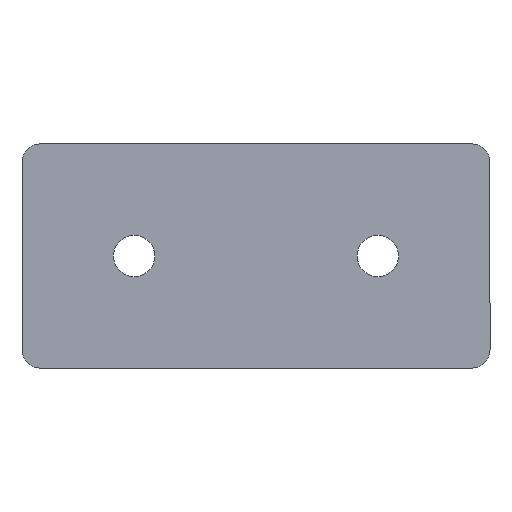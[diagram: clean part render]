
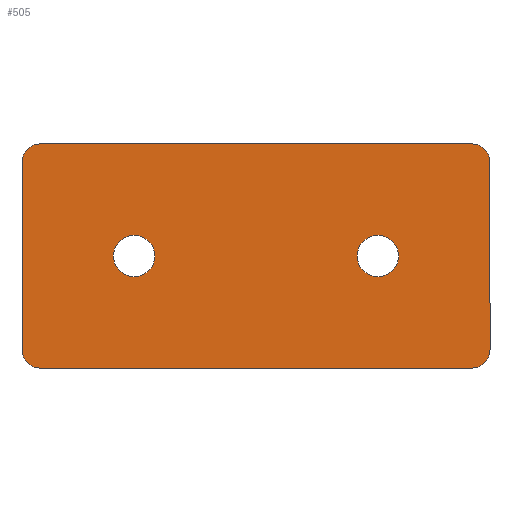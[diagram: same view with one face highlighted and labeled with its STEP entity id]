
A CAD part, front view. The second image highlights one B-rep face of the part: STEP entity #505.
In plain terms, the highlighted planar face has unit normal (0, -1, 0).
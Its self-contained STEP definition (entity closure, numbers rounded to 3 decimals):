
#11 = DIRECTION ( 'NONE',  ( 0., 1., 0. ) ) ;
#13 = DIRECTION ( 'NONE',  ( 0., 0., -1. ) ) ;
#22 = CARTESIAN_POINT ( 'NONE',  ( -9.081, -2., 12.865 ) ) ;
#31 = AXIS2_PLACEMENT_3D ( 'NONE', #432, #187, #474 ) ;
#32 = LINE ( 'NONE', #52, #452 ) ;
#39 = CIRCLE ( 'NONE', #370, 4.25 ) ;
#40 = VERTEX_POINT ( 'NONE', #262 ) ;
#41 = EDGE_CURVE ( 'NONE', #412, #144, #39, .T. ) ;
#48 = CARTESIAN_POINT ( 'NONE',  ( 79.351, -2., -33.135 ) ) ;
#52 = CARTESIAN_POINT ( 'NONE',  ( 79.351, -2., -33.135 ) ) ;
#57 = VERTEX_POINT ( 'NONE', #22 ) ;
#62 = CIRCLE ( 'NONE', #244, 4.25 ) ;
#68 = EDGE_CURVE ( 'NONE', #40, #450, #126, .T. ) ;
#71 = EDGE_LOOP ( 'NONE', ( #216, #390 ) ) ;
#74 = FACE_BOUND ( 'NONE', #71, .T. ) ;
#76 = VERTEX_POINT ( 'NONE', #48 ) ;
#77 = ORIENTED_EDGE ( 'NONE', *, *, #433, .F. ) ;
#85 = CARTESIAN_POINT ( 'NONE',  ( 83.135, -2., -29.351 ) ) ;
#86 = DIRECTION ( 'NONE',  ( 0., 1., 0. ) ) ;
#92 = DIRECTION ( 'NONE',  ( 0., 0., 1. ) ) ;
#94 = CARTESIAN_POINT ( 'NONE',  ( 79.351, -2., 12.865 ) ) ;
#95 = DIRECTION ( 'NONE',  ( -1., 0., 0. ) ) ;
#101 = EDGE_LOOP ( 'NONE', ( #395, #157 ) ) ;
#109 = ORIENTED_EDGE ( 'NONE', *, *, #135, .F. ) ;
#116 = ORIENTED_EDGE ( 'NONE', *, *, #292, .F. ) ;
#117 = AXIS2_PLACEMENT_3D ( 'NONE', #251, #11, #303 ) ;
#120 = VERTEX_POINT ( 'NONE', #85 ) ;
#121 = CARTESIAN_POINT ( 'NONE',  ( -9.081, -2., 9.081 ) ) ;
#126 = LINE ( 'NONE', #327, #333 ) ;
#127 = VERTEX_POINT ( 'NONE', #362 ) ;
#133 = CARTESIAN_POINT ( 'NONE',  ( -9.081, -2., 12.865 ) ) ;
#135 = EDGE_CURVE ( 'NONE', #280, #120, #436, .T. ) ;
#141 = DIRECTION ( 'NONE',  ( 0., 1., 0. ) ) ;
#143 = CIRCLE ( 'NONE', #281, 3.784 ) ;
#144 = VERTEX_POINT ( 'NONE', #181 ) ;
#145 = DIRECTION ( 'NONE',  ( 0., 1., 0. ) ) ;
#147 = PLANE ( 'NONE',  #218 ) ;
#157 = ORIENTED_EDGE ( 'NONE', *, *, #349, .T. ) ;
#166 = ORIENTED_EDGE ( 'NONE', *, *, #471, .F. ) ;
#173 = DIRECTION ( 'NONE',  ( 0., 1., 0. ) ) ;
#181 = CARTESIAN_POINT ( 'NONE',  ( 60.135, -2., -14.385 ) ) ;
#182 = FACE_BOUND ( 'NONE', #101, .T. ) ;
#187 = DIRECTION ( 'NONE',  ( 0., 1., 0. ) ) ;
#191 = VERTEX_POINT ( 'NONE', #423 ) ;
#193 = DIRECTION ( 'NONE',  ( 0., 0., 1. ) ) ;
#207 = LINE ( 'NONE', #133, #426 ) ;
#214 = DIRECTION ( 'NONE',  ( 0., 1., 0. ) ) ;
#216 = ORIENTED_EDGE ( 'NONE', *, *, #41, .T. ) ;
#218 = AXIS2_PLACEMENT_3D ( 'NONE', #347, #227, #512 ) ;
#227 = DIRECTION ( 'NONE',  ( 0., 1., 0. ) ) ;
#232 = EDGE_CURVE ( 'NONE', #286, #40, #487, .T. ) ;
#235 = CIRCLE ( 'NONE', #449, 4.25 ) ;
#244 = AXIS2_PLACEMENT_3D ( 'NONE', #320, #86, #363 ) ;
#249 = CARTESIAN_POINT ( 'NONE',  ( -12.865, -2., 9.081 ) ) ;
#251 = CARTESIAN_POINT ( 'NONE',  ( 79.351, -2., -29.351 ) ) ;
#252 = DIRECTION ( 'NONE',  ( 0., 1., 0. ) ) ;
#262 = CARTESIAN_POINT ( 'NONE',  ( -12.865, -2., -29.351 ) ) ;
#280 = VERTEX_POINT ( 'NONE', #360 ) ;
#281 = AXIS2_PLACEMENT_3D ( 'NONE', #121, #173, #492 ) ;
#286 = VERTEX_POINT ( 'NONE', #377 ) ;
#292 = EDGE_CURVE ( 'NONE', #407, #280, #478, .T. ) ;
#298 = CARTESIAN_POINT ( 'NONE',  ( 83.135, -2., 9.081 ) ) ;
#303 = DIRECTION ( 'NONE',  ( 0., 0., 1. ) ) ;
#307 = VECTOR ( 'NONE', #344, 1000. ) ;
#309 = CARTESIAN_POINT ( 'NONE',  ( 60.135, -2., -5.885 ) ) ;
#314 = EDGE_CURVE ( 'NONE', #76, #286, #32, .T. ) ;
#316 = EDGE_CURVE ( 'NONE', #450, #57, #143, .T. ) ;
#320 = CARTESIAN_POINT ( 'NONE',  ( 10.135, -2., -10.135 ) ) ;
#327 = CARTESIAN_POINT ( 'NONE',  ( -12.865, -2., -29.351 ) ) ;
#332 = AXIS2_PLACEMENT_3D ( 'NONE', #380, #141, #422 ) ;
#333 = VECTOR ( 'NONE', #92, 1000. ) ;
#344 = DIRECTION ( 'NONE',  ( 0., 0., -1. ) ) ;
#347 = CARTESIAN_POINT ( 'NONE',  ( -9.081, -2., 9.081 ) ) ;
#349 = EDGE_CURVE ( 'NONE', #127, #191, #235, .T. ) ;
#360 = CARTESIAN_POINT ( 'NONE',  ( 83.135, -2., 9.081 ) ) ;
#362 = CARTESIAN_POINT ( 'NONE',  ( 10.135, -2., -14.385 ) ) ;
#363 = DIRECTION ( 'NONE',  ( 0., 0., -1. ) ) ;
#366 = ORIENTED_EDGE ( 'NONE', *, *, #316, .F. ) ;
#367 = DIRECTION ( 'NONE',  ( 1., 0., 0. ) ) ;
#370 = AXIS2_PLACEMENT_3D ( 'NONE', #387, #145, #425 ) ;
#377 = CARTESIAN_POINT ( 'NONE',  ( -9.081, -2., -33.135 ) ) ;
#380 = CARTESIAN_POINT ( 'NONE',  ( -9.081, -2., -29.351 ) ) ;
#387 = CARTESIAN_POINT ( 'NONE',  ( 60.135, -2., -10.135 ) ) ;
#390 = ORIENTED_EDGE ( 'NONE', *, *, #495, .T. ) ;
#392 = AXIS2_PLACEMENT_3D ( 'NONE', #462, #214, #193 ) ;
#395 = ORIENTED_EDGE ( 'NONE', *, *, #513, .T. ) ;
#398 = CIRCLE ( 'NONE', #31, 4.25 ) ;
#407 = VERTEX_POINT ( 'NONE', #94 ) ;
#411 = CIRCLE ( 'NONE', #117, 3.784 ) ;
#412 = VERTEX_POINT ( 'NONE', #309 ) ;
#422 = DIRECTION ( 'NONE',  ( 0., 0., 1. ) ) ;
#423 = CARTESIAN_POINT ( 'NONE',  ( 10.135, -2., -5.885 ) ) ;
#425 = DIRECTION ( 'NONE',  ( 0., 0., -1. ) ) ;
#426 = VECTOR ( 'NONE', #367, 1000. ) ;
#432 = CARTESIAN_POINT ( 'NONE',  ( 60.135, -2., -10.135 ) ) ;
#433 = EDGE_CURVE ( 'NONE', #57, #407, #207, .T. ) ;
#436 = LINE ( 'NONE', #298, #307 ) ;
#448 = ORIENTED_EDGE ( 'NONE', *, *, #314, .F. ) ;
#449 = AXIS2_PLACEMENT_3D ( 'NONE', #498, #252, #13 ) ;
#450 = VERTEX_POINT ( 'NONE', #249 ) ;
#452 = VECTOR ( 'NONE', #95, 1000. ) ;
#453 = ORIENTED_EDGE ( 'NONE', *, *, #232, .F. ) ;
#462 = CARTESIAN_POINT ( 'NONE',  ( 79.351, -2., 9.081 ) ) ;
#471 = EDGE_CURVE ( 'NONE', #120, #76, #411, .T. ) ;
#474 = DIRECTION ( 'NONE',  ( 0., 0., -1. ) ) ;
#475 = ORIENTED_EDGE ( 'NONE', *, *, #68, .F. ) ;
#478 = CIRCLE ( 'NONE', #392, 3.784 ) ;
#483 = EDGE_LOOP ( 'NONE', ( #366, #475, #453, #448, #166, #109, #116, #77 ) ) ;
#487 = CIRCLE ( 'NONE', #332, 3.784 ) ;
#492 = DIRECTION ( 'NONE',  ( 0., 0., 1. ) ) ;
#495 = EDGE_CURVE ( 'NONE', #144, #412, #398, .T. ) ;
#498 = CARTESIAN_POINT ( 'NONE',  ( 10.135, -2., -10.135 ) ) ;
#505 = ADVANCED_FACE ( 'NONE', ( #182, #74, #507 ), #147, .F. ) ;
#507 = FACE_OUTER_BOUND ( 'NONE', #483, .T. ) ;
#512 = DIRECTION ( 'NONE',  ( 0., 0., 1. ) ) ;
#513 = EDGE_CURVE ( 'NONE', #191, #127, #62, .T. ) ;
